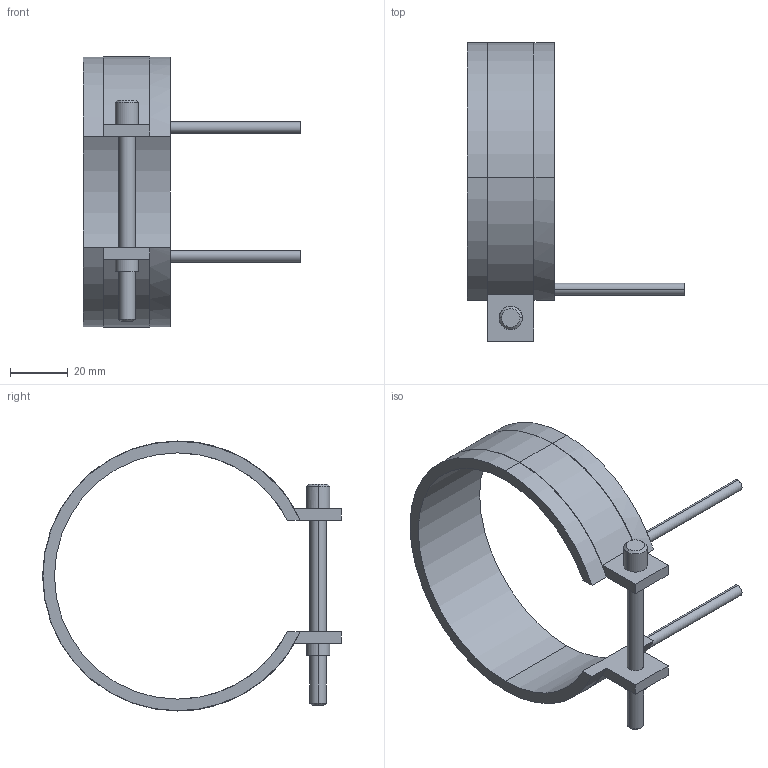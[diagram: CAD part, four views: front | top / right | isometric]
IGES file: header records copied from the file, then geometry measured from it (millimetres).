
Start section: START RECORD GO HERE.
Global section: file name: 14085030.igs; native system: DASSAULT SYSTEMES CATIA V5 R20 - www.3ds.com; preprocessor: CATIA Version 5 Release 20 ; author: Utente; organization: NB04-ASUS; date: 20210406.181814; units: millimetre
Bounding box: 75 x 103.1 x 93.2 mm (x, y, z)
Surface area: 20199.7 mm2 (no closed solid volume)
Topology: 0 solids, 0 shells, 45 faces, 232 edges, 232 vertices
Faces by surface type: revolution 28, plane 17
